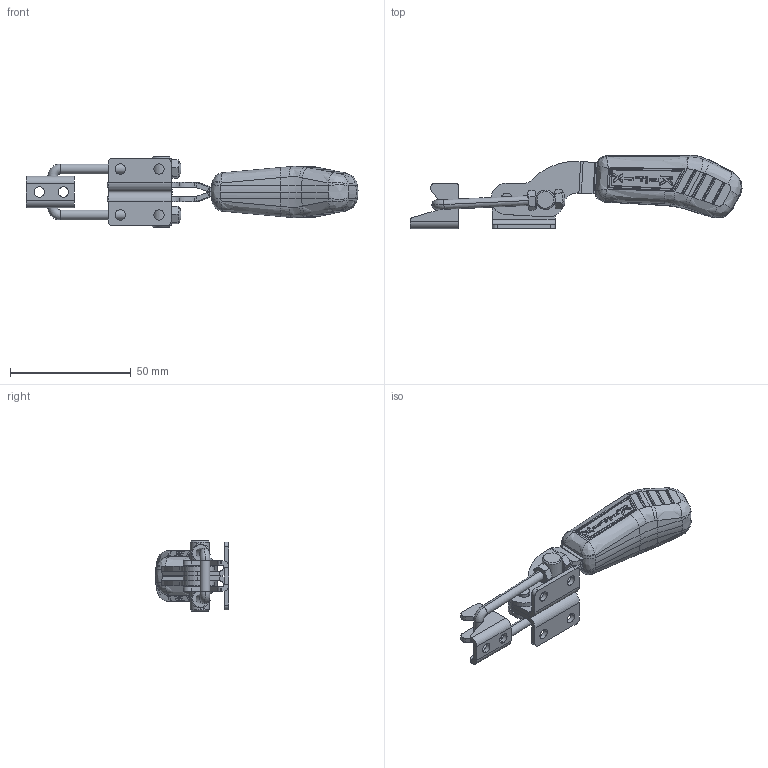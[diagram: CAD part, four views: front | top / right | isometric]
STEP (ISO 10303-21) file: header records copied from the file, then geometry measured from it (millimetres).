
FILE_DESCRIPTION (( 'STEP AP203' ), '1' );
FILE_NAME ('KF-233 D.STEP', '2014-11-06T10:52:00', ( 'Ricardo' ), ( '' ), 'SwSTEP 2.0', 'SolidWorks 2014', '' );
FILE_SCHEMA (( 'CONFIG_CONTROL_DESIGN' ));
Length unit declared in the file: millimetre
Products named in the file (12): KF-233 D; 01.10079_Esquerda; 15.10041; 16.20124; 03.20036; 11.50007; 11.50022; 02.12060_Direita; 07.60005; 02.12060_Esquerda; 06.50022; 01.10079_Direita
Assembly tree (13 placements, depth 2):
  KF-233 D
    02.12060_Direita
    02.12060_Esquerda
    01.10079_Direita
    01.10079_Esquerda
    15.10041
    16.20124
    03.20036
    11.50007  x2
    11.50022  x2
    07.60005
    06.50022
Bounding box: 137.25 x 30.56 x 29 mm (x, y, z)
Volume: 27657.4 mm3; surface area: 19755.6 mm2
Topology: 13 solids, 13 shells, 882 faces, 2248 edges, 1403 vertices
Faces by surface type: cylinder 274, bspline 269, plane 247, sphere 50, cone 34, torus 8
Entity records: 33901 total; most frequent: CARTESIAN_POINT 14592, ORIENTED_EDGE 4324, DIRECTION 3003, EDGE_CURVE 2162, VERTEX_POINT 1351, AXIS2_PLACEMENT_3D 1118, EDGE_LOOP 899, FACE_OUTER_BOUND 848
